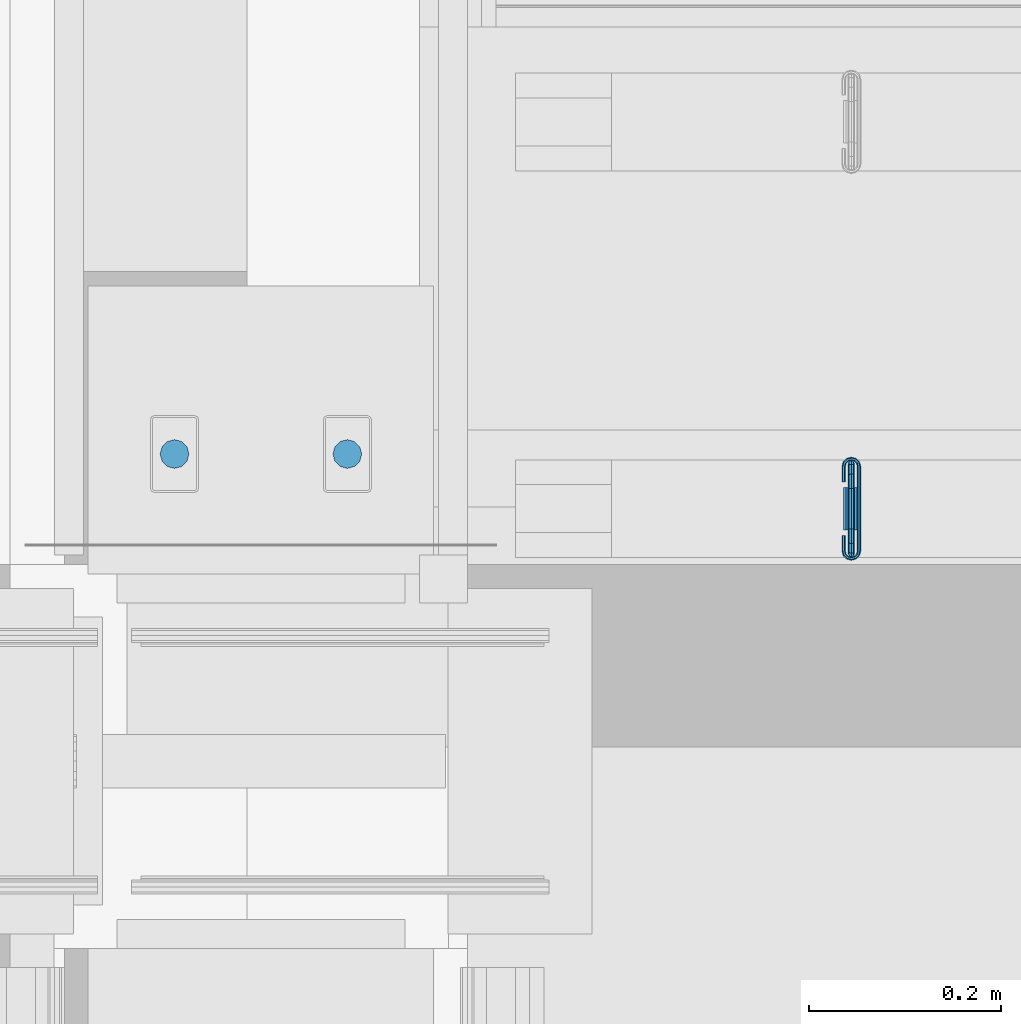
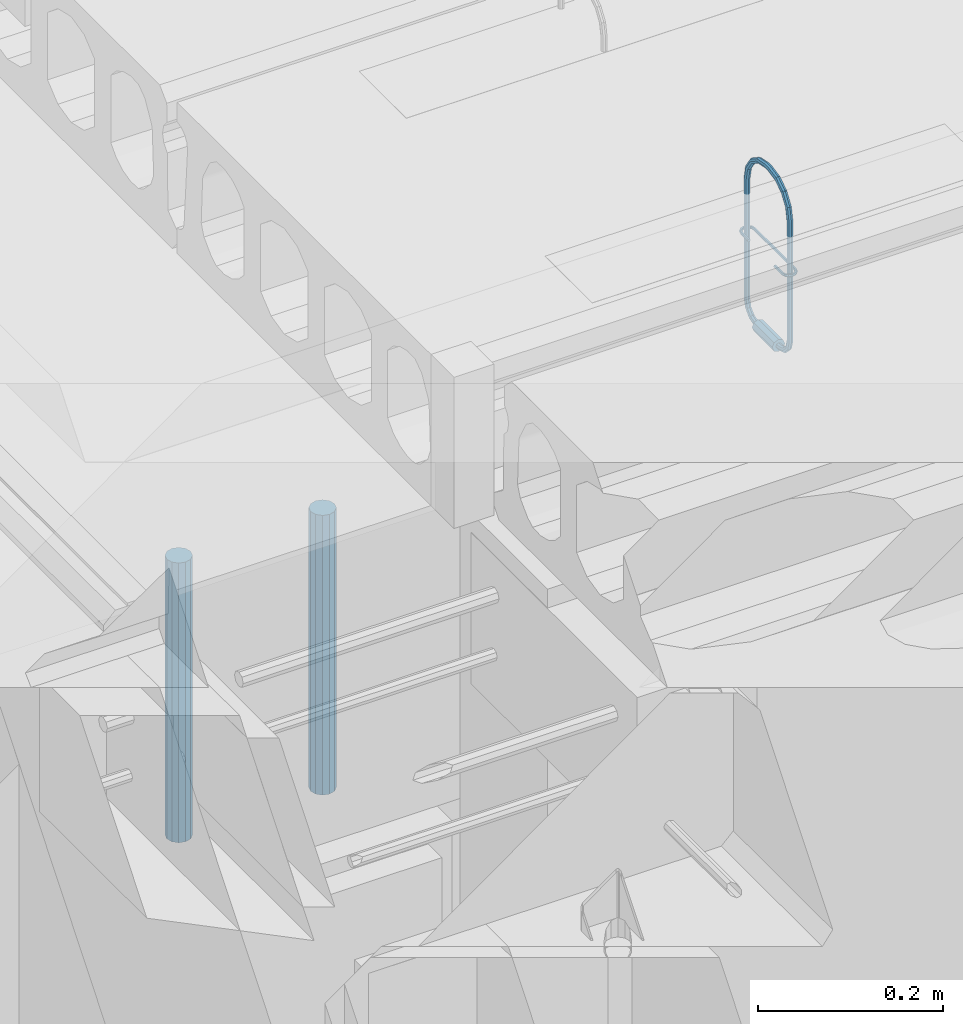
# One storey, part 177 of 230: 3 beams.
"""IFC4X3_ADD2 building model written with IfcOpenShell, lengths in millimetres."""

from ifc_helpers import new_model, si_unit, direction, origin_with_axes, place, context, subcontext, project, spatial, triangles, polygons, element, save


model = new_model("IFC4X3_ADD2")

# Units and contexts
model_context = context("Model", 3, precision=1e-05, world=origin_with_axes(), true_north=direction((0.0, 1.0)))
body_context = subcontext(model_context, "Body", "Model", "MODEL_VIEW")
ifc_project = project(units=[si_unit("LENGTHUNIT", "METRE", prefix="MILLI"), si_unit("AREAUNIT", "SQUARE_METRE"), si_unit("VOLUMEUNIT", "CUBIC_METRE"), si_unit("PLANEANGLEUNIT", "RADIAN"), si_unit("TIMEUNIT", "SECOND"), si_unit("MASSUNIT", "GRAM")], contexts=[model_context])

# Site, building, storey
site_placement = place(None, origin_with_axes())
site = spatial("IfcSite", under=ifc_project, at=site_placement, Name="Site", CompositionType="ELEMENT")
building_placement = place(site_placement, origin_with_axes())
building = spatial("IfcBuilding", under=site, at=building_placement, Name="IFC Building Story")
storey_placement = place(building_placement, origin_with_axes())
storey = spatial("IfcBuildingStorey", under=building, at=storey_placement, Name="ETAGE 00 (0)", Elevation=0.0)

# Beams
beam_1_placement = place(storey_placement, origin_with_axes())
element("IfcBeam", 1, at=beam_1_placement, inside=storey, Name="LU2", ObjectType="D7", context=body_context, shape_type="Tessellation", body=[
    triangles([(40583.66235351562, 483.5000298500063, 4036.025157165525), (40583.66235351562, 480.0000254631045, 4036.025157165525), (40581.1880859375, 483.5000298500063, 4034.999929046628), (40581.1880859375, 480.0000254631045, 4034.999929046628), (40584.69019775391, 483.5000298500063, 4038.500006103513), (40584.69019775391, 480.0000254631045, 4038.500006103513), (40583.66235351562, 480.0000254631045, 4040.974855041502), (40583.66235351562, 483.5000298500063, 4040.974855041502), (40581.1880859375, 480.0000254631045, 4042.000083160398), (40581.1880859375, 483.5000298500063, 4042.000083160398), (40578.71381835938, 480.0000254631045, 4040.974855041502), (40578.71381835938, 483.5000298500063, 4040.974855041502), (40577.690625, 480.0000254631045, 4038.500006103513), (40577.690625, 483.5000298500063, 4038.500006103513), (40578.71381835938, 483.5000298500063, 4036.025157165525), (40578.71381835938, 480.0000254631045, 4036.025157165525), (40581.1880859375, 495.7500088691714, 4038.282286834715), (40578.71381835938, 495.2374674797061, 4039.170023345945), (40581.1880859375, 504.71763010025, 4047.250053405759), (40578.71381835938, 503.8298572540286, 4047.762522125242), (40583.66235351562, 503.8298572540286, 4047.762522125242), (40583.66235351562, 495.2374674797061, 4039.170023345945), (40584.69019775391, 501.6865651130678, 4048.999946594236), (40584.69019775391, 494.0000066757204, 4041.313497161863), (40583.66235351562, 492.7625822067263, 4043.456680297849), (40583.66235351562, 499.5432366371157, 4050.237371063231), (40581.1880859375, 492.2500044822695, 4044.34441680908), (40581.1880859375, 498.6554637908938, 4050.750130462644), (40578.71381835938, 499.5432366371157, 4050.237371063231), (40578.71381835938, 492.7625822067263, 4043.456680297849), (40577.690625, 501.6865651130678, 4048.999946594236), (40577.690625, 494.0000066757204, 4041.313497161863), (40578.71381835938, 506.974905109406, 4059.499887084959), (40577.690625, 504.500019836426, 4059.499887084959), (40581.1880859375, 508.000024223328, 4059.499887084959), (40583.66235351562, 506.974905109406, 4059.499887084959), (40584.69019775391, 504.500019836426, 4059.499887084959), (40583.66235351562, 502.0251345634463, 4059.499887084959), (40581.1880859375, 501.0000154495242, 4059.499887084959), (40578.71381835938, 502.0251345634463, 4059.499887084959), (40578.71381835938, 502.0251345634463, 4218.50006561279), (40577.690625, 504.500019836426, 4218.50006561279), (40578.71381835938, 498.9403664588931, 4234.008421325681), (40577.690625, 501.2268548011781, 4234.955456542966), (40578.71381835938, 490.1556192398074, 4247.155583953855), (40577.690625, 491.9056214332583, 4248.905477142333), (40578.71381835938, 493.6556236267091, 4250.65566101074), (40578.71381835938, 503.5133068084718, 4235.902491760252), (40581.1880859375, 494.3804703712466, 4251.38032608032), (40581.1880859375, 504.46041469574, 4236.294909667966), (40583.66235351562, 493.6556236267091, 4250.65566101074), (40583.66235351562, 503.5133068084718, 4235.902491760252), (40584.69019775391, 491.9056214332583, 4248.905477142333), (40584.69019775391, 501.2268548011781, 4234.955456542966), (40583.66235351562, 498.9403664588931, 4234.008421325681), (40583.66235351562, 490.1556192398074, 4247.155583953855), (40581.1880859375, 497.993258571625, 4233.616003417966), (40581.1880859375, 489.4307361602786, 4246.430628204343), (40581.1880859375, 476.6160023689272, 4254.993186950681), (40578.71381835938, 477.0083112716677, 4255.940222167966), (40577.690625, 477.9554191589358, 4258.226710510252), (40578.71381835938, 478.9024907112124, 4260.513198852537), (40581.1880859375, 479.2947996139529, 4261.460524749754), (40583.66235351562, 478.9024907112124, 4260.513198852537), (40584.69019775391, 477.9554191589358, 4258.226710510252), (40583.66235351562, 477.0083112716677, 4255.940222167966), (40583.66235351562, 461.50002822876, 4259.025208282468), (40581.1880859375, 461.50002822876, 4257.999980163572), (40578.71381835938, 461.50002822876, 4259.025208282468), (40577.690625, 461.50002822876, 4261.500057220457), (40578.71381835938, 461.50002822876, 4263.974906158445), (40581.1880859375, 461.50002822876, 4265.000134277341), (40583.66235351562, 461.50002822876, 4263.974906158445), (40584.69019775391, 461.50002822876, 4261.500057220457), (40584.69019775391, 454.5000194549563, 4261.500057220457), (40583.66235351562, 454.5000194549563, 4259.025208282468), (40584.69019775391, 438.0446285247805, 4258.226710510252), (40583.66235351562, 438.9917364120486, 4255.940222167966), (40584.69019775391, 424.094426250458, 4248.905477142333), (40583.66235351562, 425.8444284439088, 4247.155583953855), (40581.1880859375, 439.3840089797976, 4254.993186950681), (40581.1880859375, 426.5693115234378, 4246.430628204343), (40578.71381835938, 425.8444284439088, 4247.155583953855), (40578.71381835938, 438.9917364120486, 4255.940222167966), (40577.690625, 424.094426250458, 4248.905477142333), (40577.690625, 438.0446285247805, 4258.226710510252), (40578.71381835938, 422.344424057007, 4250.65566101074), (40578.71381835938, 437.0975206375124, 4260.513198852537), (40581.1880859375, 421.6195409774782, 4251.38032608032), (40581.1880859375, 436.7052480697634, 4261.460524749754), (40583.66235351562, 422.344424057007, 4250.65566101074), (40583.66235351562, 437.0975206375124, 4260.513198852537), (40584.69019775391, 414.7731928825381, 4234.955456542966), (40583.66235351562, 412.486704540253, 4235.902491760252), (40583.66235351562, 417.0596812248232, 4234.008421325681), (40581.1880859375, 418.0067891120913, 4233.616003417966), (40578.71381835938, 417.0596812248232, 4234.008421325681), (40577.690625, 414.7731928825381, 4234.955456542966), (40578.71381835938, 412.486704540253, 4235.902491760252), (40581.1880859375, 411.5396329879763, 4236.294909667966), (40583.66235351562, 409.0251425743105, 4218.50006561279), (40581.1880859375, 408.0000234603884, 4218.50006561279), (40584.69019775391, 411.5000278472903, 4218.50006561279), (40583.66235351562, 413.9748767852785, 4218.50006561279), (40581.1880859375, 415.0000322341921, 4218.50006561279), (40578.71381835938, 413.9748767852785, 4218.50006561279), (40577.690625, 411.5000278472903, 4218.50006561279), (40578.71381835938, 409.0251425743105, 4218.50006561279), (40581.1880859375, 408.0000234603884, 4059.499887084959), (40578.71381835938, 409.0251425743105, 4059.499887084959), (40581.1880859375, 411.2823812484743, 4047.250053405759), (40578.71381835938, 412.1701904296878, 4047.762522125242), (40581.1880859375, 420.2500024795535, 4038.282286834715), (40578.71381835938, 420.7625802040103, 4039.170023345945), (40583.66235351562, 420.7625802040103, 4039.170023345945), (40583.66235351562, 412.1701904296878, 4047.762522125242), (40584.69019775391, 422.0000046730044, 4041.313497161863), (40584.69019775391, 414.3134825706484, 4048.999946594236), (40583.66235351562, 416.4567747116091, 4050.237371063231), (40583.66235351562, 423.2374654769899, 4043.456680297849), (40581.1880859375, 417.3445838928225, 4050.750130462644), (40581.1880859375, 423.7500068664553, 4044.34441680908), (40578.71381835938, 423.2374654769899, 4043.456680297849), (40578.71381835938, 416.4567747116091, 4050.237371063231), (40577.690625, 422.0000046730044, 4041.313497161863), (40577.690625, 414.3134825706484, 4048.999946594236), (40578.71381835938, 432.50001783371, 4036.025157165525), (40577.690625, 432.50001783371, 4038.500006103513), (40581.1880859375, 432.50001783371, 4034.999929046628), (40583.66235351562, 432.50001783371, 4036.025157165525), (40584.69019775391, 432.50001783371, 4038.500006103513), (40583.66235351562, 432.50001783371, 4040.974855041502), (40581.1880859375, 432.50001783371, 4042.000083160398), (40578.71381835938, 432.50001783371, 4040.974855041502), (40578.71381835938, 436.0000222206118, 4040.974855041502), (40577.690625, 436.0000222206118, 4038.500006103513), (40581.1880859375, 436.0000222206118, 4042.000083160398), (40583.66235351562, 436.0000222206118, 4040.974855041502), (40584.69019775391, 436.0000222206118, 4038.500006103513), (40583.66235351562, 436.0000222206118, 4036.025157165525), (40581.1880859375, 436.0000222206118, 4034.999929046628), (40578.71381835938, 436.0000222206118, 4036.025157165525), (40589.18759765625, 436.0000222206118, 4038.500006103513), (40581.1880859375, 436.0000222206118, 4046.500099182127), (40575.5326171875, 436.0000222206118, 4044.156928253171), (40573.18857421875, 436.0000222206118, 4038.500006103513), (40586.8435546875, 436.0000222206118, 4044.156928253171), (40575.5326171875, 436.0000222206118, 4032.843083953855), (40581.1880859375, 436.0000222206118, 4030.4999130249), (40586.8435546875, 436.0000222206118, 4032.843083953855), (40586.8435546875, 480.0000254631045, 4032.843083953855), (40581.1880859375, 480.0000254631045, 4030.4999130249), (40589.18759765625, 480.0000254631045, 4038.500006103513), (40586.8435546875, 480.0000254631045, 4044.156928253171), (40581.1880859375, 480.0000254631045, 4046.500099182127), (40575.5326171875, 480.0000254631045, 4044.156928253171), (40573.18857421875, 480.0000254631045, 4038.500006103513), (40575.5326171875, 480.0000254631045, 4032.843083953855), (40577.690625, 411.5000278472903, 4059.499887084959), (40578.71381835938, 413.9748767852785, 4059.499887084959), (40581.1880859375, 415.0000322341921, 4059.499887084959), (40583.66235351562, 413.9748767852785, 4059.499887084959), (40584.69019775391, 411.5000278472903, 4059.499887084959), (40583.66235351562, 409.0251425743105, 4059.499887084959), (40583.66235351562, 454.5000194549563, 4263.974906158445), (40581.1880859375, 454.5000194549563, 4265.000134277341), (40578.71381835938, 454.5000194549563, 4263.974906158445), (40577.690625, 454.5000194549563, 4261.500057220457), (40578.71381835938, 454.5000194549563, 4259.025208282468), (40581.1880859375, 454.5000194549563, 4257.999980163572), (40581.1880859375, 501.0000154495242, 4218.50006561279), (40583.66235351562, 502.0251345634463, 4218.50006561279), (40584.69019775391, 504.500019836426, 4218.50006561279), (40583.66235351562, 506.974905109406, 4218.50006561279), (40581.1880859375, 508.000024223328, 4218.50006561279), (40578.71381835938, 506.974905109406, 4218.50006561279), (40575.0907836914, 502.0600161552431, 4149.999886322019), (40575.0907836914, 486.0000226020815, 4149.999886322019), (40574.13735351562, 502.0600161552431, 4148.354637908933), (40574.13735351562, 486.0000226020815, 4148.354637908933), (40575.88608398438, 505.03000202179, 4149.999886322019), (40575.06287841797, 505.505009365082, 4148.354637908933), (40577.58365478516, 508.026948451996, 4148.354637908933), (40578.05804443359, 507.2042152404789, 4149.999886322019), (40577.58365478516, 508.026948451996, 4151.645425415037), (40575.06287841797, 505.505009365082, 4151.645425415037), (40581.02995605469, 508.950002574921, 4151.645425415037), (40581.02995605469, 510.85003194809, 4151.645425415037), (40576.63487548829, 509.6723785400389, 4151.645425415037), (40572.23979492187, 413.9400315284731, 4151.645425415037), (40575.06287841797, 410.4950019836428, 4151.645425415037), (40574.13735351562, 413.9400315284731, 4151.645425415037), (40572.23979492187, 430.0000250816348, 4151.645425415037), (40573.41646728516, 409.5450236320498, 4151.645425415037), (40574.13735351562, 430.0000250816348, 4151.645425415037), (40576.63487548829, 406.327669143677, 4151.645425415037), (40581.02995605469, 407.0500087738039, 4151.645425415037), (40577.58365478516, 407.9730992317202, 4151.645425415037), (40581.02995605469, 405.1500157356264, 4151.645425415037), (40572.23979492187, 502.0600161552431, 4151.645425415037), (40573.41646728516, 506.455024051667, 4151.645425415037), (40572.23979492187, 486.0000226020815, 4151.645425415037), (40574.13735351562, 502.0600161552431, 4151.645425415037), (40574.13735351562, 486.0000226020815, 4151.645425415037), (40584.79251708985, 407.9730992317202, 4151.645425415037), (40585.74594726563, 406.327669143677, 4151.645425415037), (40588.95970458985, 409.5450236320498, 4151.645425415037), (40581.35086669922, 405.1500157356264, 4151.645425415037), (40581.35086669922, 407.0500087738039, 4151.645425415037), (40587.31794433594, 410.4950019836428, 4151.645425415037), (40590.14102783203, 413.9400315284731, 4151.645425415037), (40588.23881835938, 413.9400315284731, 4151.645425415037), (40588.23881835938, 502.0600161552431, 4151.645425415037), (40585.74594726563, 509.6723785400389, 4151.645425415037), (40584.79251708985, 508.026948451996, 4151.645425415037), (40588.95970458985, 506.455024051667, 4151.645425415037), (40581.35086669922, 510.85003194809, 4151.645425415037), (40581.35086669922, 508.950002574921, 4151.645425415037), (40590.14102783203, 502.0600161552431, 4151.645425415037), (40587.31794433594, 505.505009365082, 4151.645425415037), (40572.23979492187, 430.0000250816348, 4148.354637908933), (40574.13735351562, 430.0000250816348, 4148.354637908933), (40575.0907836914, 430.0000250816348, 4149.999886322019), (40571.291015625, 430.0000250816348, 4149.999886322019), (40575.0907836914, 413.9400315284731, 4149.999886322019), (40574.13735351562, 413.9400315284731, 4148.354637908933), (40576.63487548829, 406.327669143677, 4148.354637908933), (40581.02995605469, 407.0500087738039, 4148.354637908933), (40581.02995605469, 405.1500157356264, 4148.354637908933), (40572.23979492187, 502.0600161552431, 4148.354637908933), (40572.23979492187, 486.0000226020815, 4148.354637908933), (40573.41646728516, 506.455024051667, 4148.354637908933), (40576.63487548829, 509.6723785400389, 4148.354637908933), (40581.02995605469, 508.950002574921, 4148.354637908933), (40581.02995605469, 510.85003194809, 4148.354637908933), (40572.23979492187, 413.9400315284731, 4148.354637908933), (40575.06287841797, 410.4950019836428, 4148.354637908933), (40573.41646728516, 409.5450236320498, 4148.354637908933), (40577.58365478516, 407.9730992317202, 4148.354637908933), (40584.79251708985, 508.026948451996, 4148.354637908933), (40585.74594726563, 509.6723785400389, 4148.354637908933), (40588.95970458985, 506.455024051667, 4148.354637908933), (40581.35086669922, 510.85003194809, 4148.354637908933), (40581.35086669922, 508.950002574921, 4148.354637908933), (40587.31794433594, 505.505009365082, 4148.354637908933), (40590.14102783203, 502.0600161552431, 4148.354637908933), (40588.23881835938, 502.0600161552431, 4148.354637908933), (40588.23881835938, 413.9400315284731, 4148.354637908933), (40585.74594726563, 406.327669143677, 4148.354637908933), (40584.79251708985, 407.9730992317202, 4148.354637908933), (40588.95970458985, 409.5450236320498, 4148.354637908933), (40581.35086669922, 405.1500157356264, 4148.354637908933), (40581.35086669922, 407.0500087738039, 4148.354637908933), (40590.14102783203, 413.9400315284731, 4148.354637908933), (40587.31794433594, 410.4950019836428, 4148.354637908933), (40571.291015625, 413.9400315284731, 4149.999886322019), (40572.59326171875, 409.0700162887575, 4149.999886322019), (40576.16048583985, 405.5049359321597, 4149.999886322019), (40581.02995605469, 404.200001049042, 4149.999886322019), (40581.35086669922, 404.200001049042, 4149.999886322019), (40586.22033691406, 405.5049359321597, 4149.999886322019), (40589.78291015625, 409.0700162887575, 4149.999886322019), (40591.08980712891, 413.9400315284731, 4149.999886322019), (40591.08980712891, 502.0600161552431, 4149.999886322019), (40589.78291015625, 506.930031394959, 4149.999886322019), (40586.22033691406, 510.495111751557, 4149.999886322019), (40581.35086669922, 511.800010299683, 4149.999886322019), (40581.02995605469, 511.800010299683, 4149.999886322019), (40576.16048583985, 510.495111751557, 4149.999886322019), (40572.59326171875, 506.930031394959, 4149.999886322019), (40571.291015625, 502.0600161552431, 4149.999886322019), (40571.291015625, 486.0000226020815, 4149.999886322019), (40581.02995605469, 508.000024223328, 4149.999886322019), (40581.35086669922, 508.000024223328, 4149.999886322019), (40584.31812744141, 507.2042152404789, 4149.999886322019), (40586.49473876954, 505.03000202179, 4149.999886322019), (40587.2900390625, 502.0600161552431, 4149.999886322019), (40587.2900390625, 413.9400315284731, 4149.999886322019), (40586.49473876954, 410.970009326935, 4149.999886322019), (40584.31812744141, 408.7958324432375, 4149.999886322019), (40581.35086669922, 408.0000234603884, 4149.999886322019), (40581.02995605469, 408.0000234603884, 4149.999886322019), (40578.05804443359, 408.7958324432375, 4149.999886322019), (40575.88608398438, 410.970009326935, 4149.999886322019)], [[1, 2, 3], [4, 3, 2], [5, 6, 1], [2, 1, 6], [6, 5, 7], [8, 7, 5], [7, 8, 9], [10, 9, 8], [9, 10, 11], [12, 11, 10], [11, 12, 13], [14, 13, 12], [15, 16, 14], [13, 14, 16], [3, 4, 15], [16, 15, 4], [17, 3, 18], [15, 18, 3], [19, 17, 20], [18, 20, 17], [21, 22, 17], [17, 19, 21], [23, 24, 22], [22, 21, 23], [24, 23, 25], [26, 25, 23], [25, 26, 27], [28, 27, 26], [27, 28, 29], [29, 30, 27], [30, 29, 31], [31, 32, 30], [20, 18, 31], [32, 31, 18], [33, 20, 34], [31, 34, 20], [35, 19, 33], [20, 33, 19], [36, 21, 19], [19, 35, 36], [37, 23, 21], [21, 36, 37], [23, 37, 26], [38, 26, 37], [26, 38, 28], [39, 28, 38], [28, 39, 40], [40, 29, 28], [29, 40, 34], [34, 31, 29], [40, 41, 42], [42, 34, 40], [41, 43, 44], [44, 42, 41], [43, 45, 46], [46, 44, 43], [47, 48, 46], [44, 46, 48], [49, 50, 47], [48, 47, 50], [51, 52, 50], [50, 49, 51], [53, 54, 52], [52, 51, 53], [54, 53, 55], [56, 55, 53], [55, 56, 57], [58, 57, 56], [57, 58, 45], [45, 43, 57], [58, 59, 60], [60, 45, 58], [45, 60, 61], [61, 46, 45], [62, 47, 61], [46, 61, 47], [63, 49, 62], [47, 62, 49], [64, 51, 49], [49, 63, 64], [65, 53, 51], [51, 64, 65], [53, 65, 56], [66, 56, 65], [56, 66, 58], [59, 58, 66], [66, 67, 59], [68, 59, 67], [59, 68, 69], [69, 60, 59], [60, 69, 70], [70, 61, 60], [71, 62, 70], [61, 70, 62], [72, 63, 71], [62, 71, 63], [73, 64, 63], [63, 72, 73], [74, 65, 64], [64, 73, 74], [65, 74, 66], [67, 66, 74], [74, 75, 67], [76, 67, 75], [75, 77, 76], [78, 76, 77], [77, 79, 78], [80, 78, 79], [78, 80, 81], [82, 81, 80], [81, 82, 83], [83, 84, 81], [84, 83, 85], [85, 86, 84], [87, 88, 85], [86, 85, 88], [89, 90, 87], [88, 87, 90], [91, 92, 90], [90, 89, 91], [79, 77, 92], [92, 91, 79], [93, 79, 91], [91, 94, 93], [79, 93, 80], [95, 80, 93], [80, 95, 82], [96, 82, 95], [82, 96, 97], [97, 83, 82], [83, 97, 98], [98, 85, 83], [99, 87, 98], [85, 98, 87], [100, 89, 99], [87, 99, 89], [94, 91, 89], [89, 100, 94], [101, 94, 100], [100, 102, 101], [103, 93, 94], [94, 101, 103], [93, 103, 95], [104, 95, 103], [95, 104, 96], [105, 96, 104], [96, 105, 106], [106, 97, 96], [97, 106, 107], [107, 98, 97], [108, 99, 107], [98, 107, 99], [102, 100, 108], [99, 108, 100], [109, 102, 110], [108, 110, 102], [111, 109, 112], [110, 112, 109], [113, 111, 114], [112, 114, 111], [115, 116, 111], [111, 113, 115], [117, 118, 116], [116, 115, 117], [118, 117, 119], [120, 119, 117], [119, 120, 121], [122, 121, 120], [121, 122, 123], [123, 124, 121], [124, 123, 125], [125, 126, 124], [114, 112, 125], [126, 125, 112], [127, 114, 128], [125, 128, 114], [129, 113, 127], [114, 127, 113], [130, 115, 113], [113, 129, 130], [131, 117, 115], [115, 130, 131], [117, 131, 120], [132, 120, 131], [120, 132, 122], [133, 122, 132], [122, 133, 134], [134, 123, 122], [123, 134, 128], [128, 125, 123], [134, 135, 136], [136, 128, 134], [133, 137, 134], [135, 134, 137], [132, 138, 137], [137, 133, 132], [131, 139, 132], [138, 132, 139], [139, 131, 130], [130, 140, 139], [140, 130, 141], [129, 141, 130], [141, 129, 127], [127, 142, 141], [142, 127, 136], [128, 136, 127], [138, 139, 143], [135, 137, 144], [144, 145, 135], [146, 136, 135], [146, 135, 145], [147, 137, 138], [137, 147, 144], [138, 143, 147], [148, 136, 146], [142, 149, 141], [142, 136, 148], [148, 149, 142], [150, 143, 139], [139, 140, 150], [141, 150, 140], [150, 141, 149], [151, 150, 152], [149, 152, 150], [153, 143, 151], [150, 151, 143], [143, 153, 147], [154, 147, 153], [147, 154, 144], [155, 144, 154], [144, 155, 145], [156, 145, 155], [145, 156, 146], [157, 146, 156], [158, 148, 157], [146, 157, 148], [152, 149, 158], [148, 158, 149], [11, 13, 157], [7, 9, 155], [155, 154, 7], [153, 6, 7], [153, 7, 154], [156, 9, 11], [9, 156, 155], [11, 157, 156], [151, 6, 153], [2, 152, 4], [2, 6, 151], [151, 152, 2], [158, 157, 13], [13, 16, 158], [4, 158, 16], [158, 4, 152], [112, 110, 126], [159, 126, 110], [160, 124, 126], [126, 159, 160], [161, 121, 124], [124, 160, 161], [162, 119, 161], [121, 161, 119], [163, 118, 162], [119, 162, 118], [118, 163, 164], [164, 116, 118], [116, 164, 109], [109, 111, 116], [164, 101, 102], [102, 109, 164], [163, 103, 164], [101, 164, 103], [103, 163, 104], [162, 104, 163], [104, 162, 105], [161, 105, 162], [105, 161, 160], [160, 106, 105], [106, 160, 159], [159, 107, 106], [110, 108, 107], [107, 159, 110], [77, 75, 165], [165, 92, 77], [92, 165, 166], [166, 90, 92], [90, 166, 88], [167, 88, 166], [88, 167, 86], [168, 86, 167], [169, 84, 86], [86, 168, 169], [170, 81, 84], [84, 169, 170], [76, 78, 170], [81, 170, 78], [67, 76, 68], [170, 68, 76], [68, 170, 169], [169, 69, 68], [69, 169, 168], [168, 70, 69], [167, 71, 70], [70, 168, 167], [166, 72, 71], [71, 167, 166], [165, 73, 166], [72, 166, 73], [75, 74, 165], [73, 165, 74], [171, 57, 43], [43, 41, 171], [172, 55, 171], [57, 171, 55], [173, 54, 172], [55, 172, 54], [54, 173, 174], [174, 52, 54], [52, 174, 175], [175, 50, 52], [50, 175, 48], [176, 48, 175], [48, 176, 44], [42, 44, 176], [176, 33, 34], [34, 42, 176], [175, 35, 176], [33, 176, 35], [174, 36, 35], [35, 175, 174], [173, 37, 174], [36, 174, 37], [37, 173, 38], [172, 38, 173], [38, 172, 39], [171, 39, 172], [39, 171, 41], [41, 40, 39], [18, 15, 32], [14, 32, 15], [12, 30, 32], [32, 14, 12], [10, 27, 30], [30, 12, 10], [8, 25, 10], [27, 10, 25], [5, 24, 8], [25, 8, 24], [24, 5, 1], [1, 22, 24], [22, 1, 3], [3, 17, 22], [177, 178, 179], [180, 179, 178], [181, 177, 179], [179, 182, 181], [183, 184, 181], [181, 182, 183], [184, 185, 181], [186, 181, 185], [187, 188, 189], [190, 191, 192], [190, 192, 193], [190, 194, 191], [195, 193, 192], [196, 197, 198], [198, 191, 194], [199, 197, 196], [196, 198, 194], [200, 186, 201], [202, 203, 200], [204, 203, 202], [200, 203, 186], [185, 189, 201], [201, 186, 185], [189, 185, 187], [205, 206, 207], [197, 199, 208], [208, 209, 197], [209, 206, 205], [206, 209, 208], [210, 207, 211], [207, 210, 205], [212, 211, 213], [211, 212, 210], [214, 215, 216], [217, 188, 187], [187, 218, 217], [218, 215, 214], [214, 217, 218], [213, 219, 220], [219, 213, 211], [220, 216, 215], [216, 220, 219], [195, 221, 193], [222, 195, 223], [193, 221, 224], [195, 222, 221], [223, 225, 226], [226, 222, 223], [227, 228, 229], [230, 182, 179], [230, 179, 231], [230, 232, 182], [180, 231, 179], [233, 234, 183], [183, 182, 232], [235, 234, 233], [233, 183, 232], [236, 237, 238], [221, 226, 236], [222, 226, 221], [236, 226, 237], [239, 227, 238], [238, 237, 239], [227, 239, 228], [240, 241, 242], [243, 234, 235], [243, 244, 234], [244, 243, 241], [240, 244, 241], [245, 242, 246], [242, 245, 240], [247, 246, 248], [246, 247, 245], [249, 250, 251], [252, 229, 228], [228, 253, 252], [253, 250, 249], [249, 252, 253], [248, 254, 255], [254, 248, 246], [255, 251, 250], [251, 255, 254], [221, 236, 256], [256, 224, 221], [190, 193, 256], [224, 256, 193], [257, 194, 256], [190, 256, 194], [238, 257, 256], [256, 236, 238], [227, 258, 238], [257, 238, 258], [258, 196, 194], [194, 257, 258], [259, 199, 196], [196, 258, 259], [260, 208, 259], [199, 259, 208], [261, 206, 260], [208, 260, 206], [249, 261, 260], [260, 252, 249], [252, 260, 259], [259, 229, 252], [229, 259, 227], [258, 227, 259], [251, 262, 261], [261, 249, 251], [262, 207, 261], [206, 261, 207], [263, 211, 207], [207, 262, 263], [263, 264, 211], [219, 211, 264], [219, 264, 216], [265, 216, 264], [264, 246, 242], [242, 265, 264], [264, 263, 254], [254, 246, 264], [254, 263, 251], [262, 251, 263], [265, 242, 266], [241, 266, 242], [216, 265, 266], [266, 214, 216], [214, 266, 267], [267, 217, 214], [217, 267, 268], [268, 188, 217], [188, 268, 189], [269, 189, 268], [268, 235, 233], [233, 269, 268], [267, 243, 268], [235, 268, 243], [266, 241, 267], [243, 267, 241], [269, 233, 232], [232, 270, 269], [189, 269, 201], [270, 201, 269], [201, 270, 271], [271, 200, 201], [202, 200, 272], [271, 272, 200], [202, 180, 204], [231, 202, 272], [204, 180, 178], [202, 231, 180], [230, 231, 271], [272, 271, 231], [270, 232, 271], [230, 271, 232], [178, 177, 203], [203, 204, 178], [177, 181, 203], [186, 203, 181], [234, 273, 184], [184, 183, 234], [273, 187, 184], [185, 184, 187], [274, 218, 273], [187, 273, 218], [275, 215, 218], [218, 274, 275], [276, 220, 215], [215, 275, 276], [213, 220, 276], [276, 277, 213], [212, 213, 277], [277, 278, 212], [210, 212, 279], [278, 279, 212], [210, 279, 205], [280, 205, 279], [205, 280, 209], [281, 209, 280], [209, 281, 197], [282, 197, 281], [197, 282, 283], [283, 198, 197], [198, 283, 284], [284, 191, 198], [284, 225, 192], [192, 191, 284], [225, 223, 192], [195, 192, 223], [225, 284, 226], [237, 226, 284], [283, 239, 284], [237, 284, 239], [282, 228, 283], [239, 283, 228], [281, 253, 228], [228, 282, 281], [280, 250, 253], [253, 281, 280], [279, 255, 250], [250, 280, 279], [248, 255, 279], [279, 278, 248], [247, 248, 277], [278, 277, 248], [245, 247, 276], [277, 276, 247], [245, 276, 240], [275, 240, 276], [240, 275, 244], [274, 244, 275], [244, 274, 273], [273, 234, 244]]),
])
beam_2_placement = place(storey_placement, origin_with_axes())
element("IfcBeam", 2, at=beam_2_placement, inside=storey, Name="SD11", ObjectType="D30", context=body_context, shape_type="Tessellation", body=[
    polygons([(40041.189, 515.0000000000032, 3960.0), (40041.189, 515.0000000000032, 3590.0), (40043.19861894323, 507.5000000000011, 3590.0), (40043.19861894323, 507.5000000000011, 3960.0), (40048.689, 502.0096189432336, 3590.0), (40048.689, 502.0096189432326, 3960.0), (40056.189, 500.0, 3590.0), (40056.189, 500.0, 3960.0), (40063.689, 502.0096189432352, 3590.0), (40063.689, 502.0096189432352, 3960.0), (40069.17938105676, 507.4999999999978, 3590.0), (40069.17938105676, 507.4999999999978, 3960.0), (40071.189, 514.9999999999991, 3590.0), (40071.189, 514.9999999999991, 3960.0), (40069.17938105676, 522.5000000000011, 3590.0), (40069.17938105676, 522.5000000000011, 3960.0), (40063.689, 527.9903810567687, 3590.0), (40063.689, 527.9903810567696, 3960.0), (40056.189, 530.0, 3590.0), (40056.189, 530.0, 3960.0), (40048.689, 527.9903810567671, 3590.0), (40048.689, 527.9903810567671, 3960.0), (40043.19861894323, 522.5000000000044, 3590.0), (40043.19861894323, 522.5000000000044, 3960.0)], [[[1, 2, 3, 4]], [[4, 3, 5, 6]], [[6, 5, 7, 8]], [[8, 7, 9, 10]], [[10, 9, 11, 12]], [[12, 11, 13, 14]], [[14, 13, 15, 16]], [[16, 15, 17, 18]], [[18, 17, 19, 20]], [[20, 19, 21, 22]], [[22, 21, 23, 24]], [[24, 23, 2, 1]], [[4, 6, 8]], [[4, 8, 10]], [[4, 10, 12]], [[4, 12, 14]], [[4, 14, 16]], [[4, 16, 18]], [[4, 18, 20]], [[4, 20, 22]], [[4, 22, 24]], [[4, 24, 1]], [[2, 23, 21]], [[2, 21, 19]], [[2, 19, 17]], [[2, 17, 15]], [[2, 15, 13]], [[2, 13, 11]], [[2, 11, 9]], [[2, 9, 7]], [[2, 7, 5]], [[2, 5, 3]]]),
])
beam_3_placement = place(storey_placement, origin_with_axes())
element("IfcBeam", 3, at=beam_3_placement, inside=storey, Name="SD11", ObjectType="D30", context=body_context, shape_type="Tessellation", body=[
    polygons([(39861.189, 514.9999999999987, 3960.0), (39861.189, 514.9999999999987, 3590.0), (39863.19861894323, 507.4999999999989, 3590.0), (39863.19861894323, 507.4999999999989, 3960.0), (39868.689, 502.0096189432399, 3590.0), (39868.689, 502.009618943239, 3960.0), (39876.189, 500.0, 3590.0), (39876.189, 500.0, 3960.0), (39883.689, 502.0096189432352, 3590.0), (39883.689, 502.0096189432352, 3960.0), (39889.17938105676, 507.500000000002, 3590.0), (39889.17938105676, 507.500000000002, 3960.0), (39891.189, 514.9999999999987, 3590.0), (39891.189, 514.9999999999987, 3960.0), (39889.17938105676, 522.4999999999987, 3590.0), (39889.17938105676, 522.4999999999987, 3960.0), (39883.689, 527.9903810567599, 3590.0), (39883.689, 527.9903810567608, 3960.0), (39876.189, 530.0, 3590.0), (39876.189, 530.0, 3960.0), (39868.68899999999, 527.9903810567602, 3590.0), (39868.68899999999, 527.9903810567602, 3960.0), (39863.19861894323, 522.4999999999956, 3590.0), (39863.19861894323, 522.4999999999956, 3960.0)], [[[1, 2, 3, 4]], [[4, 3, 5, 6]], [[6, 5, 7, 8]], [[8, 7, 9, 10]], [[10, 9, 11, 12]], [[12, 11, 13, 14]], [[14, 13, 15, 16]], [[16, 15, 17, 18]], [[18, 17, 19, 20]], [[20, 19, 21, 22]], [[22, 21, 23, 24]], [[24, 23, 2, 1]], [[4, 6, 8]], [[4, 8, 10]], [[4, 10, 12]], [[4, 12, 14]], [[4, 14, 16]], [[4, 16, 18]], [[4, 18, 20]], [[4, 20, 22]], [[4, 22, 24]], [[4, 24, 1]], [[2, 23, 21]], [[2, 21, 19]], [[2, 19, 17]], [[2, 17, 15]], [[2, 15, 13]], [[2, 13, 11]], [[2, 11, 9]], [[2, 9, 7]], [[2, 7, 5]], [[2, 5, 3]]]),
])

save(model, "model.ifc")
